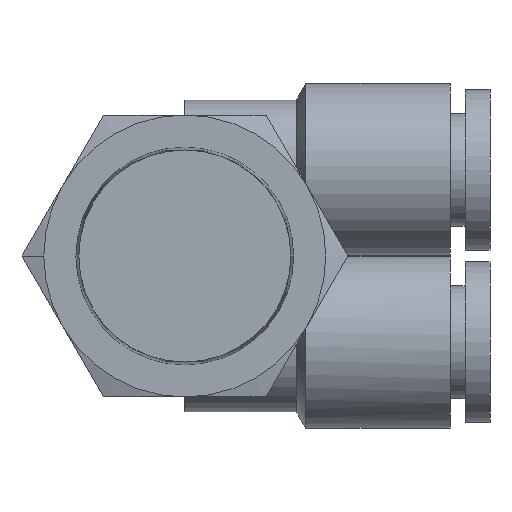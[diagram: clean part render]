
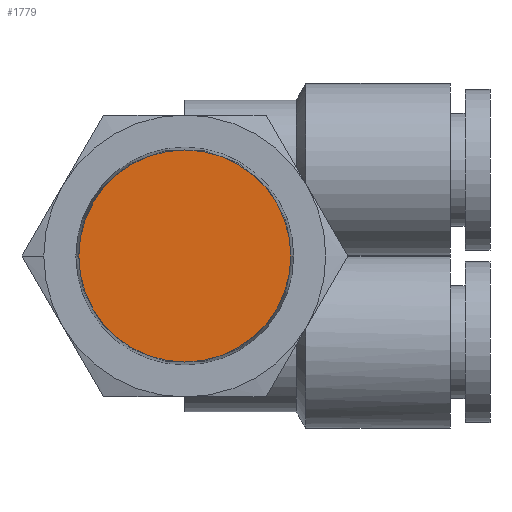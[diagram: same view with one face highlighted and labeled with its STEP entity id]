
A CAD part, front view. The second image highlights one B-rep face of the part: STEP entity #1779.
In plain terms, the highlighted planar face has unit normal (0, -1, 0).
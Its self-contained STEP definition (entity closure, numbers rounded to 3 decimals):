
#60 = DIRECTION ( 'NONE',  ( 0., -1., 0. ) ) ;
#302 = CARTESIAN_POINT ( 'NONE',  ( -6.391, -7.6, 0. ) ) ;
#324 = VERTEX_POINT ( 'NONE', #2358 ) ;
#358 = AXIS2_PLACEMENT_3D ( 'NONE', #3537, #2888, #3860 ) ;
#427 = CIRCLE ( 'NONE', #358, 6.391 ) ;
#591 = VERTEX_POINT ( 'NONE', #302 ) ;
#742 = DIRECTION ( 'NONE',  ( 1., 0., 0. ) ) ;
#757 = FACE_OUTER_BOUND ( 'NONE', #2065, .T. ) ;
#981 = AXIS2_PLACEMENT_3D ( 'NONE', #3089, #3130, #3110 ) ;
#1779 = ADVANCED_FACE ( 'NONE', ( #757 ), #1780, .F. ) ;
#1780 = PLANE ( 'NONE',  #981 ) ;
#1839 = AXIS2_PLACEMENT_3D ( 'NONE', #3695, #60, #742 ) ;
#2065 = EDGE_LOOP ( 'NONE', ( #2985, #4216 ) ) ;
#2358 = CARTESIAN_POINT ( 'NONE',  ( 6.391, -7.6, 0. ) ) ;
#2426 = EDGE_CURVE ( 'NONE', #591, #324, #427, .T. ) ;
#2888 = DIRECTION ( 'NONE',  ( 0., -1., 0. ) ) ;
#2985 = ORIENTED_EDGE ( 'NONE', *, *, #2426, .T. ) ;
#3089 = CARTESIAN_POINT ( 'NONE',  ( 6.391, -7.6, 0. ) ) ;
#3110 = DIRECTION ( 'NONE',  ( 1., 0., 0. ) ) ;
#3130 = DIRECTION ( 'NONE',  ( 0., 1., 0. ) ) ;
#3537 = CARTESIAN_POINT ( 'NONE',  ( 0., -7.6, 0. ) ) ;
#3591 = EDGE_CURVE ( 'NONE', #324, #591, #4197, .T. ) ;
#3695 = CARTESIAN_POINT ( 'NONE',  ( 0., -7.6, 0. ) ) ;
#3860 = DIRECTION ( 'NONE',  ( 1., 0., 0. ) ) ;
#4197 = CIRCLE ( 'NONE', #1839, 6.391 ) ;
#4216 = ORIENTED_EDGE ( 'NONE', *, *, #3591, .T. ) ;
